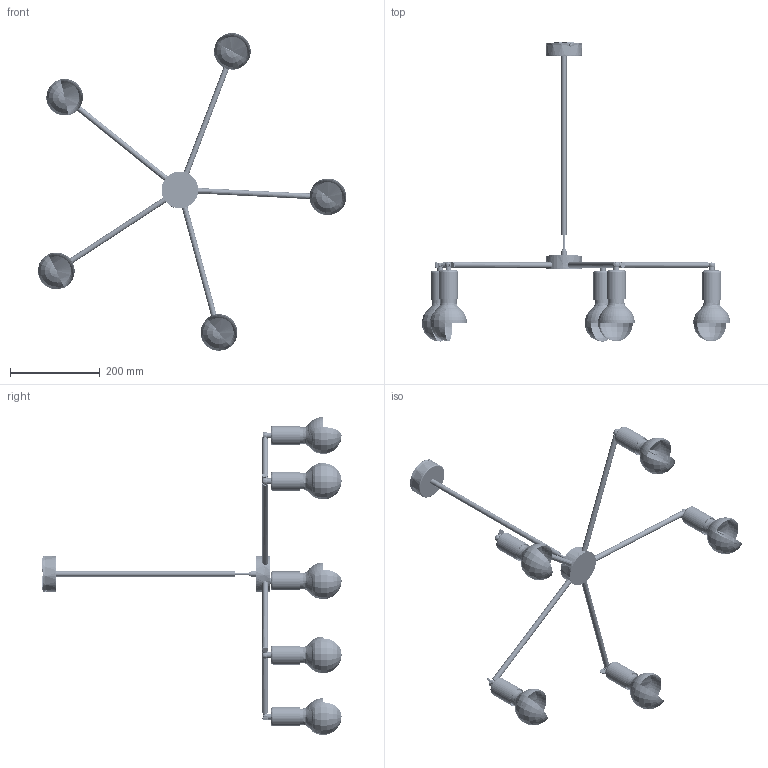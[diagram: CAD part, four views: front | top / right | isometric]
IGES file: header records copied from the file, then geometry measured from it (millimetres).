
Start section: SolidWorks IGES file using analytic representation for surfaces
Global section: file name: E:\3D lampy\Sticks\Sticks V\Sticks_9735.IGS; native system: SolidWorks 2016; preprocessor: SolidWorks 2016; author: Asia; date: 170629.105620; units: millimetre
Bounding box: 687.99 x 667.71 x 709.54 mm (x, y, z)
Surface area: 598196.8 mm2 (no closed solid volume)
Topology: 0 solids, 0 shells, 1525 faces, 22763 edges, 22758 vertices
Faces by surface type: revolution 964, bspline 561
